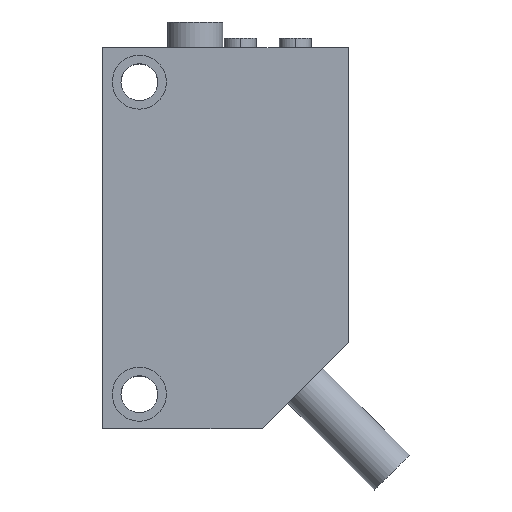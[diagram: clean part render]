
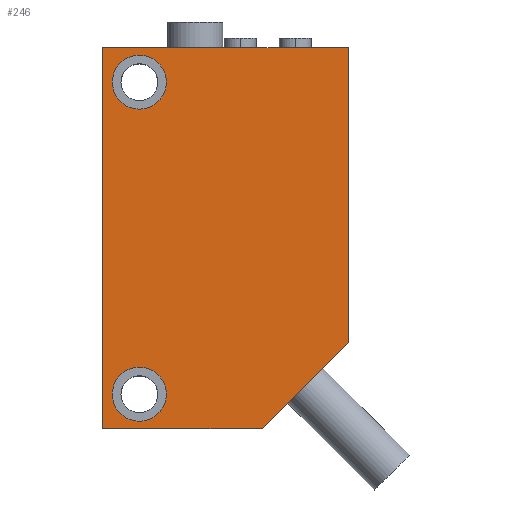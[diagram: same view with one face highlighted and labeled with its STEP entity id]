
A CAD part, top view. The second image highlights one B-rep face of the part: STEP entity #246.
In plain terms, the highlighted planar face has unit normal (0, 0, 1).
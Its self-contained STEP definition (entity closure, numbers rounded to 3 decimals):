
#16 = ORIENTED_EDGE ( 'NONE', *, *, #1962, .T. ) ;
#60 = EDGE_CURVE ( 'NONE', #1025, #1634, #639, .T. ) ;
#119 = VERTEX_POINT ( 'NONE', #1064 ) ;
#138 = VERTEX_POINT ( 'NONE', #1236 ) ;
#191 = VERTEX_POINT ( 'NONE', #1592 ) ;
#196 = ORIENTED_EDGE ( 'NONE', *, *, #562, .T. ) ;
#216 = EDGE_LOOP ( 'NONE', ( #1995, #1085, #16, #196, #1810 ) ) ;
#221 = ORIENTED_EDGE ( 'NONE', *, *, #1412, .F. ) ;
#236 = EDGE_CURVE ( 'NONE', #119, #191, #364, .T. ) ;
#246 = ADVANCED_FACE ( 'NONE', ( #417, #418, #419 ), #420, .T. ) ;
#364 = CIRCLE ( 'NONE', #365, 2.2 ) ;
#365 = AXIS2_PLACEMENT_3D ( 'NONE', #366, #367, #372 ) ;
#366 = CARTESIAN_POINT ( 'NONE',  ( 0., 0., 5.2 ) ) ;
#367 = DIRECTION ( 'NONE',  ( 0., 0., 1. ) ) ;
#372 = DIRECTION ( 'NONE',  ( 1., 0., 0. ) ) ;
#417 = FACE_BOUND ( 'NONE', #1873, .T. ) ;
#418 = FACE_OUTER_BOUND ( 'NONE', #216, .T. ) ;
#419 = FACE_BOUND ( 'NONE', #1890, .T. ) ;
#420 = PLANE ( 'NONE',  #421 ) ;
#421 = AXIS2_PLACEMENT_3D ( 'NONE', #422, #423, #424 ) ;
#422 = CARTESIAN_POINT ( 'NONE',  ( -3., -2.8, 5.2 ) ) ;
#423 = DIRECTION ( 'NONE',  ( 0., 0., 1. ) ) ;
#424 = DIRECTION ( 'NONE',  ( 1., 0., 0. ) ) ;
#562 = EDGE_CURVE ( 'NONE', #138, #1025, #707, .T. ) ;
#639 = LINE ( 'NONE', #640, #644 ) ;
#640 = CARTESIAN_POINT ( 'NONE',  ( -3., 28.2, 5.2 ) ) ;
#644 = VECTOR ( 'NONE', #645, 1000. ) ;
#645 = DIRECTION ( 'NONE',  ( -1., 0., 0. ) ) ;
#707 = LINE ( 'NONE', #708, #709 ) ;
#708 = CARTESIAN_POINT ( 'NONE',  ( 17., 28.2, 5.2 ) ) ;
#709 = VECTOR ( 'NONE', #710, 1000. ) ;
#710 = DIRECTION ( 'NONE',  ( 0., 1., 0. ) ) ;
#796 = EDGE_CURVE ( 'NONE', #1126, #1540, #861, .T. ) ;
#854 = EDGE_CURVE ( 'NONE', #1634, #1922, #899, .T. ) ;
#861 = CIRCLE ( 'NONE', #862, 2.2 ) ;
#862 = AXIS2_PLACEMENT_3D ( 'NONE', #863, #864, #865 ) ;
#863 = CARTESIAN_POINT ( 'NONE',  ( 0., 25.4, 5.2 ) ) ;
#864 = DIRECTION ( 'NONE',  ( 0., 0., 1. ) ) ;
#865 = DIRECTION ( 'NONE',  ( 1., 0., 0. ) ) ;
#899 = LINE ( 'NONE', #900, #901 ) ;
#900 = CARTESIAN_POINT ( 'NONE',  ( -3., 28.2, 5.2 ) ) ;
#901 = VECTOR ( 'NONE', #902, 1000. ) ;
#902 = DIRECTION ( 'NONE',  ( 0., -1., 0. ) ) ;
#1011 = CARTESIAN_POINT ( 'NONE',  ( 17., 28.2, 5.2 ) ) ;
#1012 = CARTESIAN_POINT ( 'NONE',  ( -3., -2.8, 5.2 ) ) ;
#1025 = VERTEX_POINT ( 'NONE', #1011 ) ;
#1063 = CARTESIAN_POINT ( 'NONE',  ( 2.2, 25.4, 5.2 ) ) ;
#1064 = CARTESIAN_POINT ( 'NONE',  ( -2.2, 0., 5.2 ) ) ;
#1085 = ORIENTED_EDGE ( 'NONE', *, *, #1953, .T. ) ;
#1126 = VERTEX_POINT ( 'NONE', #1063 ) ;
#1236 = CARTESIAN_POINT ( 'NONE',  ( 17., 4.2, 5.2 ) ) ;
#1266 = CIRCLE ( 'NONE', #1267, 2.2 ) ;
#1267 = AXIS2_PLACEMENT_3D ( 'NONE', #1268, #1269, #1270 ) ;
#1268 = CARTESIAN_POINT ( 'NONE',  ( 0., 25.4, 5.2 ) ) ;
#1269 = DIRECTION ( 'NONE',  ( 0., 0., 1. ) ) ;
#1270 = DIRECTION ( 'NONE',  ( 1., 0., 0. ) ) ;
#1343 = CARTESIAN_POINT ( 'NONE',  ( -2.2, 25.4, 5.2 ) ) ;
#1359 = LINE ( 'NONE', #1360, #1361 ) ;
#1360 = CARTESIAN_POINT ( 'NONE',  ( -3., -2.8, 5.2 ) ) ;
#1361 = VECTOR ( 'NONE', #1362, 1000. ) ;
#1362 = DIRECTION ( 'NONE',  ( 1., 0., 0. ) ) ;
#1392 = ORIENTED_EDGE ( 'NONE', *, *, #796, .F. ) ;
#1399 = CIRCLE ( 'NONE', #1400, 2.2 ) ;
#1400 = AXIS2_PLACEMENT_3D ( 'NONE', #1401, #1402, #1403 ) ;
#1401 = CARTESIAN_POINT ( 'NONE',  ( 0., 0., 5.2 ) ) ;
#1402 = DIRECTION ( 'NONE',  ( 0., 0., 1. ) ) ;
#1403 = DIRECTION ( 'NONE',  ( 1., 0., 0. ) ) ;
#1412 = EDGE_CURVE ( 'NONE', #1540, #1126, #1266, .T. ) ;
#1419 = CARTESIAN_POINT ( 'NONE',  ( -3., 28.2, 5.2 ) ) ;
#1425 = LINE ( 'NONE', #1426, #1427 ) ;
#1426 = CARTESIAN_POINT ( 'NONE',  ( 17., 4.2, 5.2 ) ) ;
#1427 = VECTOR ( 'NONE', #1428, 1000. ) ;
#1428 = DIRECTION ( 'NONE',  ( 0.707, 0.707, 0. ) ) ;
#1540 = VERTEX_POINT ( 'NONE', #1343 ) ;
#1592 = CARTESIAN_POINT ( 'NONE',  ( 2.2, 0., 5.2 ) ) ;
#1613 = ORIENTED_EDGE ( 'NONE', *, *, #1960, .F. ) ;
#1618 = CARTESIAN_POINT ( 'NONE',  ( 10., -2.8, 5.2 ) ) ;
#1634 = VERTEX_POINT ( 'NONE', #1419 ) ;
#1810 = ORIENTED_EDGE ( 'NONE', *, *, #60, .T. ) ;
#1873 = EDGE_LOOP ( 'NONE', ( #221, #1392 ) ) ;
#1890 = EDGE_LOOP ( 'NONE', ( #1895, #1613 ) ) ;
#1895 = ORIENTED_EDGE ( 'NONE', *, *, #236, .F. ) ;
#1922 = VERTEX_POINT ( 'NONE', #1012 ) ;
#1953 = EDGE_CURVE ( 'NONE', #1922, #1984, #1359, .T. ) ;
#1960 = EDGE_CURVE ( 'NONE', #191, #119, #1399, .T. ) ;
#1962 = EDGE_CURVE ( 'NONE', #1984, #138, #1425, .T. ) ;
#1984 = VERTEX_POINT ( 'NONE', #1618 ) ;
#1995 = ORIENTED_EDGE ( 'NONE', *, *, #854, .T. ) ;
